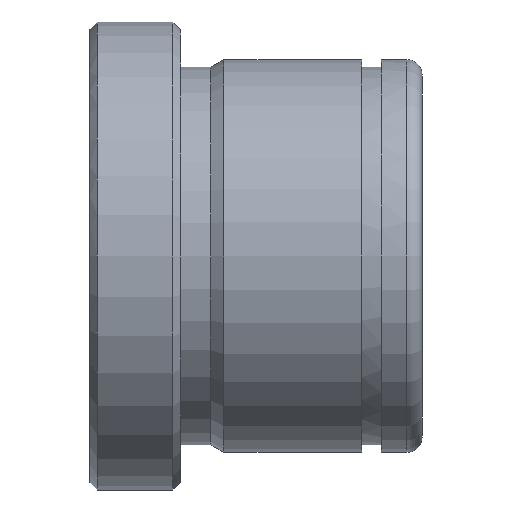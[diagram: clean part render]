
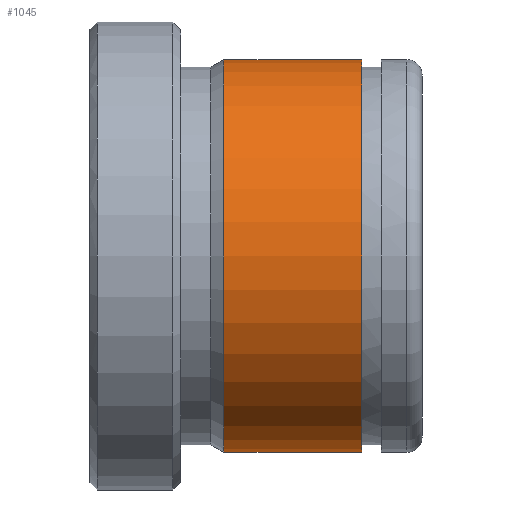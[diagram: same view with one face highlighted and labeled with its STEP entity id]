
A CAD part, front view. The second image highlights one B-rep face of the part: STEP entity #1045.
In plain terms, the highlighted cylindrical face has radius 13 mm (diameter 26 mm), a partial arc.
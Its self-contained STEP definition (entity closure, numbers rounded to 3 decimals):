
#851=CARTESIAN_POINT('Vertex',(8.866,0.,-13.)) ;
#858=CARTESIAN_POINT('Vertex',(8.866,0.,13.)) ;
#887=CARTESIAN_POINT('Axis2P3D Location',(8.866,0.,0.)) ;
#891=CARTESIAN_POINT('Vertex',(8.866,-13.,0.)) ;
#894=CARTESIAN_POINT('Axis2P3D Location',(8.866,0.,0.)) ;
#985=CARTESIAN_POINT('Line Origine',(44.,0.,13.)) ;
#989=CARTESIAN_POINT('Vertex',(18.,0.,13.)) ;
#1003=CARTESIAN_POINT('Vertex',(18.,0.,-13.)) ;
#1006=CARTESIAN_POINT('Line Origine',(44.,0.,-13.)) ;
#1020=CARTESIAN_POINT('Axis2P3D Location',(44.,0.,0.)) ;
#1025=CARTESIAN_POINT('Axis2P3D Location',(18.,0.,0.)) ;
#1029=CARTESIAN_POINT('Vertex',(18.,-13.,0.)) ;
#1032=CARTESIAN_POINT('Axis2P3D Location',(18.,0.,0.)) ;
#888=DIRECTION('Axis2P3D Direction',(1.,0.,-0.)) ;
#895=DIRECTION('Axis2P3D Direction',(1.,0.,-0.)) ;
#986=DIRECTION('Vector Direction',(-1.,0.,0.)) ;
#1007=DIRECTION('Vector Direction',(-1.,0.,0.)) ;
#1021=DIRECTION('Axis2P3D Direction',(-1.,-0.,-0.)) ;
#1022=DIRECTION('Axis2P3D XDirection',(0.,0.,-1.)) ;
#1026=DIRECTION('Axis2P3D Direction',(-1.,-0.,-0.)) ;
#1033=DIRECTION('Axis2P3D Direction',(-1.,-0.,-0.)) ;
#889=AXIS2_PLACEMENT_3D('Circle Axis2P3D',#887,#888,$) ;
#896=AXIS2_PLACEMENT_3D('Circle Axis2P3D',#894,#895,$) ;
#1023=AXIS2_PLACEMENT_3D('Cylinder Axis2P3D',#1020,#1021,#1022) ;
#1027=AXIS2_PLACEMENT_3D('Circle Axis2P3D',#1025,#1026,$) ;
#1034=AXIS2_PLACEMENT_3D('Circle Axis2P3D',#1032,#1033,$) ;
#1038=ORIENTED_EDGE('',*,*,#1010,.T.) ;
#1039=ORIENTED_EDGE('',*,*,#1031,.F.) ;
#1040=ORIENTED_EDGE('',*,*,#1036,.F.) ;
#1041=ORIENTED_EDGE('',*,*,#991,.T.) ;
#1042=ORIENTED_EDGE('',*,*,#898,.T.) ;
#1043=ORIENTED_EDGE('',*,*,#893,.T.) ;
#987=VECTOR('Line Direction',#986,1.) ;
#1008=VECTOR('Line Direction',#1007,1.) ;
#1045=ADVANCED_FACE('553-18X22',(#1044),#1024,.T.) ;
#890=CIRCLE('generated circle',#889,13.) ;
#897=CIRCLE('generated circle',#896,13.) ;
#1028=CIRCLE('generated circle',#1027,13.) ;
#1035=CIRCLE('generated circle',#1034,13.) ;
#1024=CYLINDRICAL_SURFACE('generated cylinder',#1023,13.) ;
#893=EDGE_CURVE('',#892,#852,#890,.T.) ;
#898=EDGE_CURVE('',#859,#892,#897,.T.) ;
#991=EDGE_CURVE('',#990,#859,#988,.T.) ;
#1010=EDGE_CURVE('',#852,#1004,#1009,.F.) ;
#1031=EDGE_CURVE('',#1030,#1004,#1028,.F.) ;
#1036=EDGE_CURVE('',#990,#1030,#1035,.F.) ;
#1037=EDGE_LOOP('',(#1038,#1039,#1040,#1041,#1042,#1043)) ;
#1044=FACE_OUTER_BOUND('',#1037,.T.) ;
#988=LINE('Line',#985,#987) ;
#1009=LINE('Line',#1006,#1008) ;
#852=VERTEX_POINT('',#851) ;
#859=VERTEX_POINT('',#858) ;
#892=VERTEX_POINT('',#891) ;
#990=VERTEX_POINT('',#989) ;
#1004=VERTEX_POINT('',#1003) ;
#1030=VERTEX_POINT('',#1029) ;
